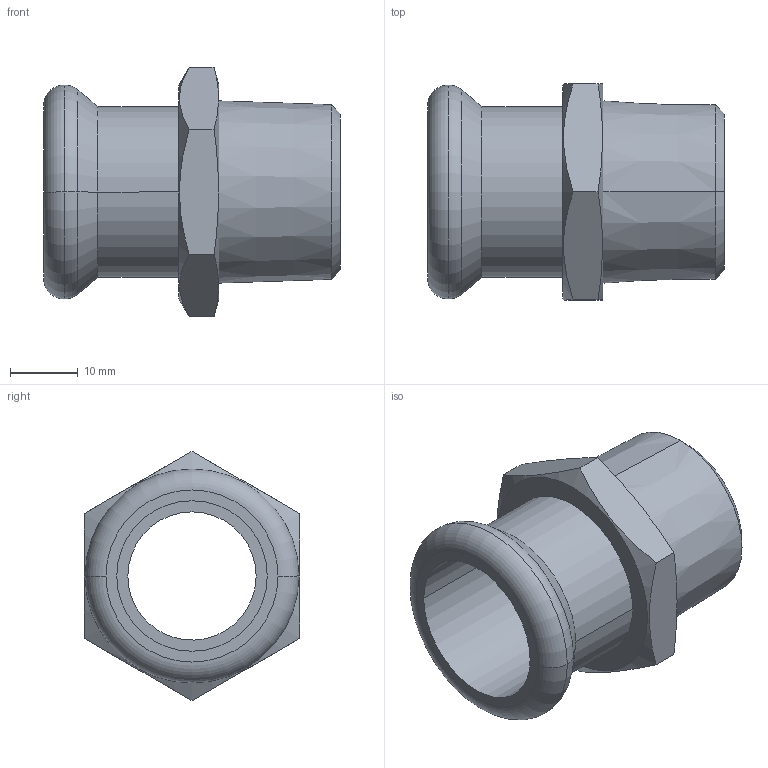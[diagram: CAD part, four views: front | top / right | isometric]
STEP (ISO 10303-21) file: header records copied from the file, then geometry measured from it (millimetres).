
FILE_DESCRIPTION(('CoCreate Modeling STEP Export'),'2;1');
FILE_NAME('C1405 22xR3-4.stp','2014-11-07T14:18:45',(''),(''),'CoCreate Modeling STEP processor for AP214 (Solid Model)','CoCreate Modeling 17.00A 17-Jun-2010 (C) Parametric Technology GmbH','');
FILE_SCHEMA(('AUTOMOTIVE_DESIGN { 1 0 10303 214 1 1 1 1 }'));
Length unit declared in the file: millimetre
Products named in the file (2): C1405_22xR3-4
Assembly tree (1 placements, depth 2):
  C1405_22xR3-4
    C1405_22xR3-4
Bounding box: 44 x 32 x 36.95 mm (x, y, z)
Volume: 11257 mm3; surface area: 8032.2 mm2
Topology: 1 solids, 1 shells, 34 faces, 82 edges, 54 vertices
Faces by surface type: plane 12, cone 10, cylinder 8, torus 4
Entity records: 1715 total; most frequent: CARTESIAN_POINT 978, ORIENTED_EDGE 164, DIRECTION 112, EDGE_CURVE 82, VERTEX_POINT 54, AXIS2_PLACEMENT_3D 44, EDGE_LOOP 40, FACE_OUTER_BOUND 34
